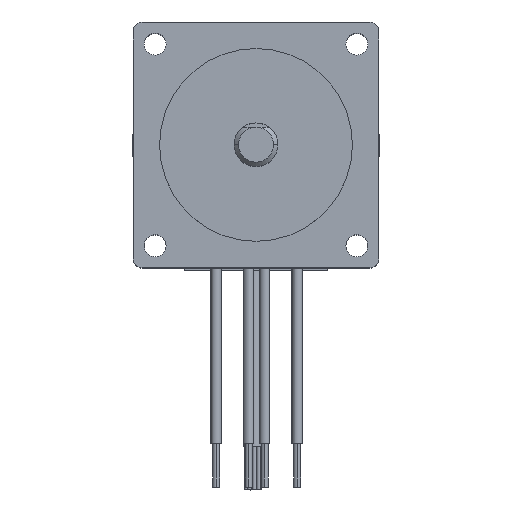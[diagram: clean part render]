
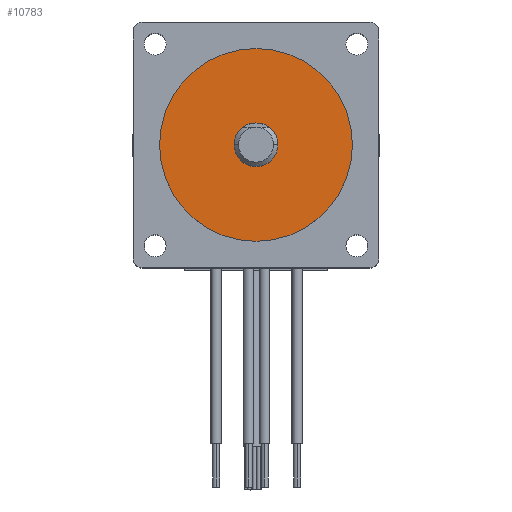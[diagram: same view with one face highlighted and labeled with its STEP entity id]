
A CAD part, top view. The second image highlights one B-rep face of the part: STEP entity #10783.
In plain terms, the highlighted planar face has unit normal (0, 0, 1).
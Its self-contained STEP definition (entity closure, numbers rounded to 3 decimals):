
#409 = ORIENTED_EDGE ( 'NONE', *, *, #10860, .T. ) ;
#559 = CIRCLE ( 'NONE', #2998, 2.5 ) ;
#681 = DIRECTION ( 'NONE',  ( 0., 0., 1. ) ) ;
#751 = DIRECTION ( 'NONE',  ( 0., 0., 1. ) ) ;
#877 = CIRCLE ( 'NONE', #7243, 11. ) ;
#1110 = AXIS2_PLACEMENT_3D ( 'NONE', #8839, #7075, #2805 ) ;
#1310 = CARTESIAN_POINT ( 'NONE',  ( -2.5, 0., 34.45 ) ) ;
#1386 = ORIENTED_EDGE ( 'NONE', *, *, #4245, .T. ) ;
#1607 = DIRECTION ( 'NONE',  ( 1., 0., 0. ) ) ;
#1906 = VERTEX_POINT ( 'NONE', #9562 ) ;
#2481 = CARTESIAN_POINT ( 'NONE',  ( 0., 0., 34.45 ) ) ;
#2532 = DIRECTION ( 'NONE',  ( 1., 0., 0. ) ) ;
#2705 = EDGE_CURVE ( 'NONE', #9624, #3616, #9046, .T. ) ;
#2805 = DIRECTION ( 'NONE',  ( 1., 0., 0. ) ) ;
#2860 = CARTESIAN_POINT ( 'NONE',  ( 2.5, 0., 34.45 ) ) ;
#2998 = AXIS2_PLACEMENT_3D ( 'NONE', #4048, #751, #7028 ) ;
#3409 = CARTESIAN_POINT ( 'NONE',  ( 0., 0., 34.45 ) ) ;
#3616 = VERTEX_POINT ( 'NONE', #1310 ) ;
#3957 = DIRECTION ( 'NONE',  ( 0., 0., 1. ) ) ;
#4048 = CARTESIAN_POINT ( 'NONE',  ( 0., 0., 34.45 ) ) ;
#4245 = EDGE_CURVE ( 'NONE', #1906, #8599, #877, .T. ) ;
#4604 = CIRCLE ( 'NONE', #6195, 11. ) ;
#4761 = EDGE_LOOP ( 'NONE', ( #1386, #409 ) ) ;
#4953 = EDGE_LOOP ( 'NONE', ( #8396, #9875 ) ) ;
#6195 = AXIS2_PLACEMENT_3D ( 'NONE', #2481, #6629, #1607 ) ;
#6629 = DIRECTION ( 'NONE',  ( 0., 0., 1. ) ) ;
#6681 = EDGE_CURVE ( 'NONE', #3616, #9624, #559, .T. ) ;
#7028 = DIRECTION ( 'NONE',  ( 1., 0., 0. ) ) ;
#7075 = DIRECTION ( 'NONE',  ( 0., 0., 1. ) ) ;
#7243 = AXIS2_PLACEMENT_3D ( 'NONE', #8178, #3957, #7338 ) ;
#7338 = DIRECTION ( 'NONE',  ( 1., 0., 0. ) ) ;
#7434 = CARTESIAN_POINT ( 'NONE',  ( 11., 0., 34.45 ) ) ;
#8178 = CARTESIAN_POINT ( 'NONE',  ( 0., 0., 34.45 ) ) ;
#8396 = ORIENTED_EDGE ( 'NONE', *, *, #2705, .F. ) ;
#8599 = VERTEX_POINT ( 'NONE', #7434 ) ;
#8839 = CARTESIAN_POINT ( 'NONE',  ( 0., 0., 34.45 ) ) ;
#9046 = CIRCLE ( 'NONE', #1110, 2.5 ) ;
#9562 = CARTESIAN_POINT ( 'NONE',  ( -11., 0., 34.45 ) ) ;
#9624 = VERTEX_POINT ( 'NONE', #2860 ) ;
#9875 = ORIENTED_EDGE ( 'NONE', *, *, #6681, .F. ) ;
#9953 = FACE_BOUND ( 'NONE', #4953, .T. ) ;
#10075 = AXIS2_PLACEMENT_3D ( 'NONE', #3409, #681, #2532 ) ;
#10109 = PLANE ( 'NONE',  #10075 ) ;
#10783 = ADVANCED_FACE ( 'NONE', ( #9953, #10883 ), #10109, .T. ) ;
#10860 = EDGE_CURVE ( 'NONE', #8599, #1906, #4604, .T. ) ;
#10883 = FACE_OUTER_BOUND ( 'NONE', #4761, .T. ) ;
